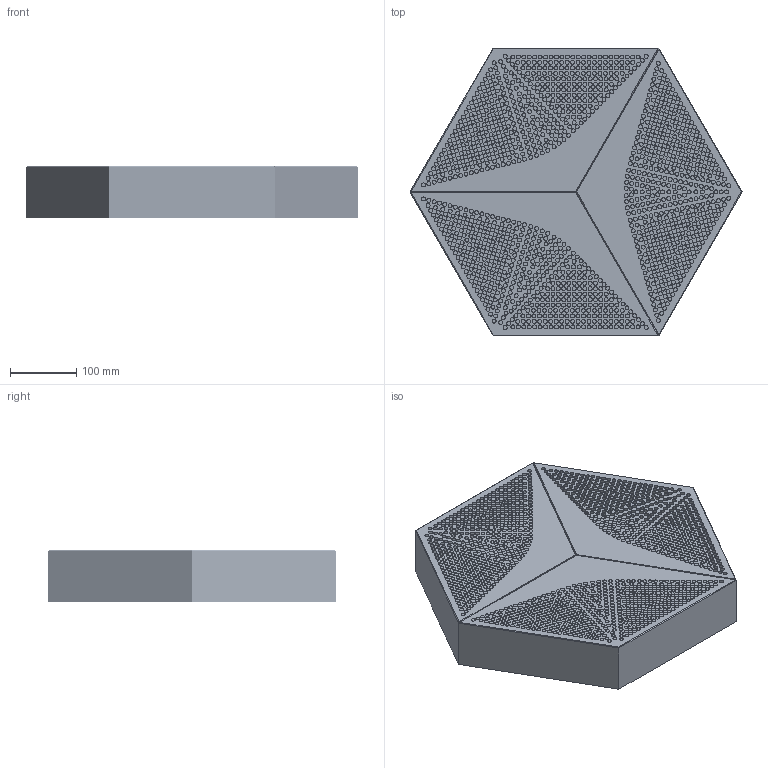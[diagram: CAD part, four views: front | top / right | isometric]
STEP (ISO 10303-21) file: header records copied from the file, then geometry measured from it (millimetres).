
FILE_DESCRIPTION(/* description */ (''),/* implementation_level */ '2;1');
FILE_NAME(/* name */ 'A04_HEXAGO_CM-A_FLAT',/* time_stamp */ '2025-06-24T16:05:08+02:00',/* author */ (''),/* organization */ (''),/* preprocessor_version */ 'ST-DEVELOPER v16.5',/* originating_system */ 'Rhino 7.38',/* authorisation */ '');
FILE_SCHEMA (('CONFIG_CONTROL_DESIGN'));
Length unit declared in the file: millimetre
Products named in the file (1): Document
Bounding box: 500 x 433.01 x 77 mm (x, y, z)
Surface area: 397396.6 mm2 (no closed solid volume)
Topology: 0 solids, 1 shells, 22 faces, 1533 edges, 1513 vertices
Faces by surface type: plane 22
Entity records: 23014 total; most frequent: CARTESIAN_POINT 15145, ORIENTED_EDGE 1578, EDGE_CURVE 1533, VERTEX_POINT 1513, EDGE_LOOP 1510, FACE_BOUND 1488, B_SPLINE_CURVE_WITH_KNOTS 45, DIRECTION 26
